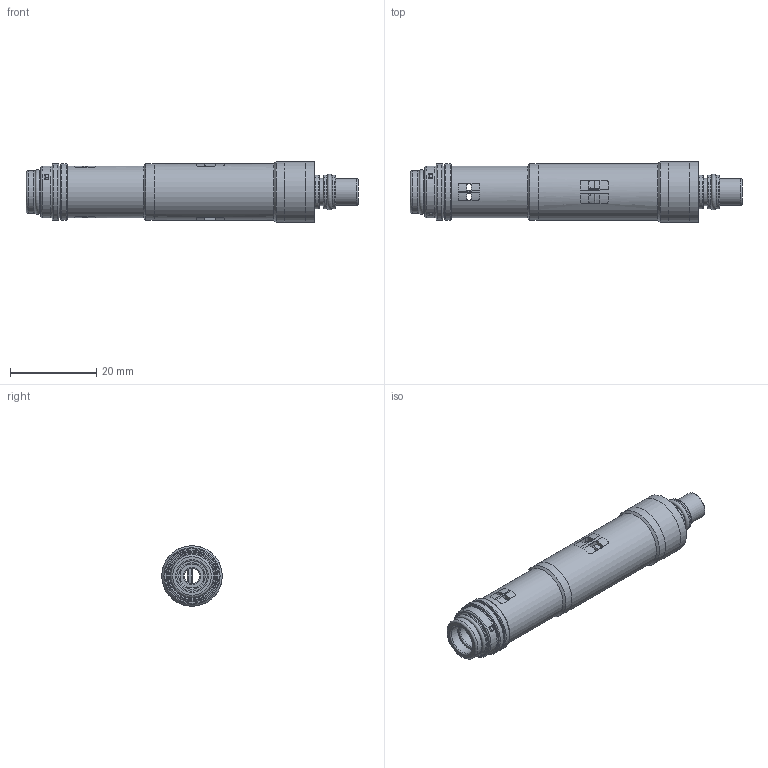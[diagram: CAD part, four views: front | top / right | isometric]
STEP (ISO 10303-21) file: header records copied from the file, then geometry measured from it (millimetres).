
FILE_DESCRIPTION( ( 'Unknown' ), '1' );
FILE_NAME( 'C:/Documents and Settings/Owner/官帕 拳搁/VC252.stp', 'Unknown', ( 'Unknown' ), ( 'Unknown' ), 'PSStep 10.0', 'Unknown', ' ' );
FILE_SCHEMA( ( 'AUTOMOTIVE_DESIGN { 1 0 10303 214 1 1 1 1 }' ) );
Length unit declared in the file: millimetre
Products named in the file (8): Assem1; Nozzle Body-252; Nozzle-C2.53-O-Ring; Housing-VC252; Check valve-2.5-2(熱薑16.01.15-LM; Stopring-253
Bounding box: 76.8 x 14 x 14 mm (x, y, z)
Volume: 10777.1 mm3; surface area: 20700.7 mm2
Topology: 14 solids, 14 shells, 984 faces, 2434 edges, 1486 vertices
Faces by surface type: plane 364, cylinder 314, torus 206, sphere 56, bspline 36, cone 8
Full cylindrical faces by diameter (mm): 3.6 x2, 3.8 x2, 5.4 x2, 5.5 x2, 6.2 x2, 6.3 x4, 6.308 x2, 6.6 x4, 7 x2, 7.4 x6, 7.8 x6, 8 x2, 8.2 x4, 8.4 x2, 8.412 x2, 8.6 x4, 9.2 x2, 9.9 x4, 10 x14, 11 x10, 12 x6, 13 x4, 14 x2
Entity records: 22806 total; most frequent: CARTESIAN_POINT 7784, DIRECTION 2304, ORIENTED_EDGE 2142, EDGE_CURVE 1071, AXIS2_PLACEMENT_3D 925, VERTEX_POINT 714, EDGE_LOOP 651, FACE_OUTER_BOUND 581
